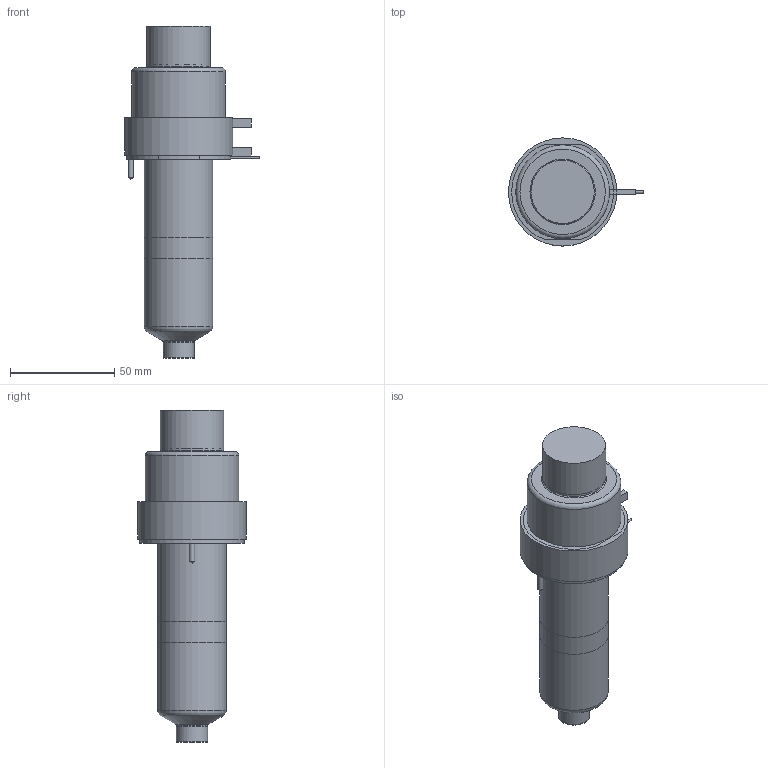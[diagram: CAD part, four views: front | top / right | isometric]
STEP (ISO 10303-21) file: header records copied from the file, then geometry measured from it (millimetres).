
FILE_DESCRIPTION(/* description */ (''),/* implementation_level */ '2;1');
FILE_NAME(/* name */ 'SXTBE-SXIBE-SXOBE19095_250C_a',/* time_stamp */ '2016-03-03T10:19:41+13:00',/* author */ (''),/* organization */ (''),/* preprocessor_version */ 'ST-DEVELOPER v9',/* originating_system */ 'UGS - NX 4.0',/* authorisation */ '');
FILE_SCHEMA (('CONFIG_CONTROL_DESIGN'));
Length unit declared in the file: millimetre
Products named in the file (1): matt0BBCfgy0
Bounding box: 64.85 x 52 x 159.51 mm (x, y, z)
Volume: 296904.1 mm3; surface area: 43934.4 mm2
Topology: 7 solids, 7 shells, 92 faces, 180 edges, 116 vertices
Faces by surface type: plane 45, cylinder 28, torus 9, cone 9, bspline 1
Full cylindrical faces by diameter (mm): 1 x3, 1.2 x1, 2.5 x2, 8 x1, 14.61 x1, 15.01 x2, 18.3 x1, 28.6 x1, 30 x1, 30.4 x1, 33 x2, 38.1 x1, 45 x1, 50 x1, 52 x1
Entity records: 2250 total; most frequent: CARTESIAN_POINT 438, DIRECTION 382, ORIENTED_EDGE 268, AXIS2_PLACEMENT_3D 166, EDGE_LOOP 142, EDGE_CURVE 134, VERTEX_POINT 107, ADVANCED_FACE 92
